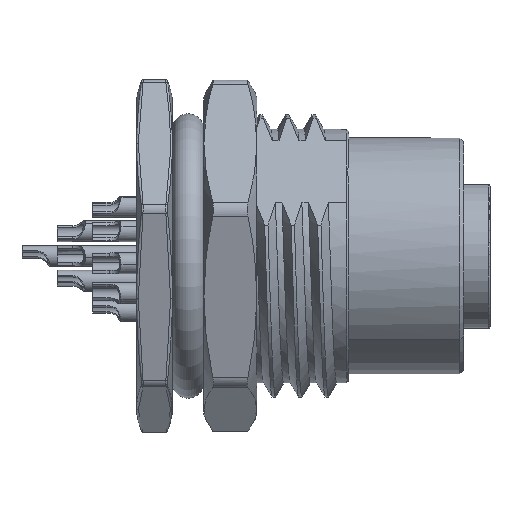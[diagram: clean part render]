
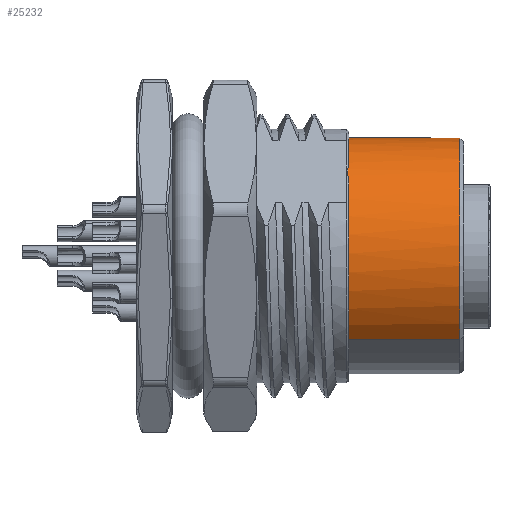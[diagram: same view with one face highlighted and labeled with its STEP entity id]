
A CAD part, top view. The second image highlights one B-rep face of the part: STEP entity #25232.
In plain terms, the highlighted cylindrical face has radius 6.7 mm (diameter 13.4 mm), a partial arc.
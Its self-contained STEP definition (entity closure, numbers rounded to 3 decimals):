
#1726=CARTESIAN_POINT('',(-1.7,0.,0.));
#1727=DIRECTION('',(-1.,0.,0.));
#1728=DIRECTION('',(0.,-0.707,0.707));
#1729=AXIS2_PLACEMENT_3D('',#1726,#1727,#1728);
#1735=CARTESIAN_POINT('',(-8.,0.,0.));
#1736=DIRECTION('',(1.,0.,0.));
#1737=DIRECTION('',(0.,0.616,0.788));
#1738=AXIS2_PLACEMENT_3D('',#1735,#1736,#1737);
#1745=CARTESIAN_POINT('',(-8.,0.,0.));
#1746=DIRECTION('',(1.,0.,0.));
#1747=DIRECTION('',(0.,0.707,-0.707));
#1748=AXIS2_PLACEMENT_3D('',#1745,#1746,#1747);
#12420=CARTESIAN_POINT('',(-8.,5.28,4.125));
#12421=CARTESIAN_POINT('',(-8.017,5.195,
4.233));
#12422=CARTESIAN_POINT('',(-8.042,5.02,
4.443));
#12423=CARTESIAN_POINT('',(-8.054,4.741,
4.741));
#12424=CARTESIAN_POINT('',(-8.042,4.443,
5.02));
#12425=CARTESIAN_POINT('',(-8.017,4.233,
5.195));
#12426=CARTESIAN_POINT('',(-8.,4.125,5.28));
#13160=DIRECTION('',(-1.,0.,0.));
#13161=VECTOR('',#13160,6.3);
#13162=CARTESIAN_POINT('',(-1.7,4.738,
-4.738));
#13163=LINE('',#13162,#13161);
#13164=DIRECTION('',(-1.,0.,0.));
#13165=VECTOR('',#13164,6.3);
#13166=CARTESIAN_POINT('',(-1.7,-4.738,
4.738));
#13167=LINE('',#13166,#13165);
#21759=CARTESIAN_POINT('',(-8.,4.738,-4.738));
#21760=CARTESIAN_POINT('',(-8.,-4.738,4.738));
#21761=VERTEX_POINT('',#21759);
#21762=VERTEX_POINT('',#21760);
#21945=CARTESIAN_POINT('',(-1.7,-4.738,4.738));
#21946=CARTESIAN_POINT('',(-1.7,4.738,-4.738));
#21947=VERTEX_POINT('',#21945);
#21948=VERTEX_POINT('',#21946);
#22337=CARTESIAN_POINT('',(-8.,4.125,5.28));
#22339=VERTEX_POINT('',#22337);
#22342=CARTESIAN_POINT('',(-8.,5.28,4.125));
#22344=VERTEX_POINT('',#22342);
#25214=CARTESIAN_POINT('',(-18.825,0.,0.));
#25215=DIRECTION('',(1.,0.,0.));
#25216=DIRECTION('',(0.,-0.707,0.707));
#25217=AXIS2_PLACEMENT_3D('',#25214,#25215,#25216);
#25218=CYLINDRICAL_SURFACE('',#25217,6.7);
#25220=ORIENTED_EDGE('',*,*,#25219,.F.);
#25222=ORIENTED_EDGE('',*,*,#25221,.F.);
#25224=ORIENTED_EDGE('',*,*,#25223,.F.);
#25226=ORIENTED_EDGE('',*,*,#25225,.F.);
#25227=ORIENTED_EDGE('',*,*,#25197,.F.);
#25229=ORIENTED_EDGE('',*,*,#25228,.T.);
#25230=EDGE_LOOP('',(#25220,#25222,#25224,#25226,#25227,#25229));
#25231=FACE_OUTER_BOUND('',#25230,.F.);
#25232=ADVANCED_FACE('',(#25231),#25218,.T.);
#1730=CIRCLE('',#1729,6.7);
#1739=CIRCLE('',#1738,6.7);
#1749=CIRCLE('',#1748,6.7);
#12427=B_SPLINE_CURVE_WITH_KNOTS('',3,(#12420,#12421,#12422,#12423,#12424,
#12425,#12426),.UNSPECIFIED.,.F.,.F.,(4,1,1,1,4),(0.,0.25,0.5,0.75,
1.),.UNSPECIFIED.);
#25197=EDGE_CURVE('',#21947,#21948,#1730,.T.);
#25219=EDGE_CURVE('',#22339,#21762,#1739,.T.);
#25221=EDGE_CURVE('',#22344,#22339,#12427,.T.);
#25223=EDGE_CURVE('',#21761,#22344,#1749,.T.);
#25225=EDGE_CURVE('',#21948,#21761,#13163,.T.);
#25228=EDGE_CURVE('',#21947,#21762,#13167,.T.);
